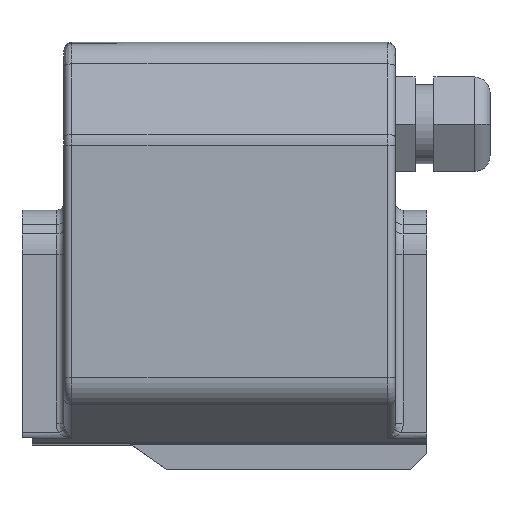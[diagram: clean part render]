
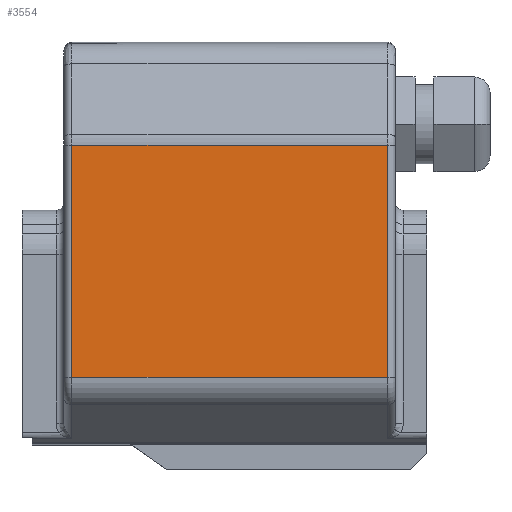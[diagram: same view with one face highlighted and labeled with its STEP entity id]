
A CAD part, left-side view. The second image highlights one B-rep face of the part: STEP entity #3554.
In plain terms, the highlighted planar face has unit normal (-1, 0, 0.009).
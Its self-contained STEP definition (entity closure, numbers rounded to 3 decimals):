
#413=ORIENTED_EDGE('',*,*,#1113,.T.);
#414=ORIENTED_EDGE('',*,*,#1115,.T.);
#415=ORIENTED_EDGE('',*,*,#1116,.F.);
#416=ORIENTED_EDGE('',*,*,#1117,.T.);
#1113=EDGE_CURVE('',#1460,#1459,#1694,.T.);
#1115=EDGE_CURVE('',#1459,#1461,#1695,.T.);
#1116=EDGE_CURVE('',#1462,#1461,#1696,.T.);
#1117=EDGE_CURVE('',#1462,#1460,#1697,.F.);
#1459=VERTEX_POINT('',#4968);
#1460=VERTEX_POINT('',#4970);
#1461=VERTEX_POINT('',#4974);
#1462=VERTEX_POINT('',#4976);
#1694=LINE('',#4969,#1919);
#1695=LINE('',#4973,#1920);
#1696=LINE('',#4975,#1921);
#1697=LINE('',#4977,#1922);
#1919=VECTOR('',#4133,1000.);
#1920=VECTOR('',#4138,1000.);
#1921=VECTOR('',#4139,1000.);
#1922=VECTOR('',#4140,1000.);
#2098=EDGE_LOOP('',(#413,#414,#415,#416));
#2258=FACE_BOUND('',#2098,.T.);
#2407=PLANE('',#3732);
#3554=ADVANCED_FACE('',(#2258),#2407,.F.);
#3732=AXIS2_PLACEMENT_3D('',#4972,#4136,#4137);
#4133=DIRECTION('',(0.,1.,0.));
#4136=DIRECTION('',(1.,0.,-0.009));
#4137=DIRECTION('',(-0.009,0.,-1.));
#4138=DIRECTION('',(-0.009,0.,-1.));
#4139=DIRECTION('',(0.,1.,0.));
#4140=DIRECTION('',(-0.009,0.,-1.));
#4968=CARTESIAN_POINT('',(-49.353,50.,63.315));
#4969=CARTESIAN_POINT('',(-49.353,-52.5,63.315));
#4970=CARTESIAN_POINT('',(-49.353,-50.,63.315));
#4972=CARTESIAN_POINT('',(-49.995,-52.5,-10.25));
#4973=CARTESIAN_POINT('',(-49.995,50.,-10.25));
#4974=CARTESIAN_POINT('',(-49.995,50.,-10.25));
#4975=CARTESIAN_POINT('',(-49.995,-52.5,-10.25));
#4976=CARTESIAN_POINT('',(-49.995,-50.,-10.25));
#4977=CARTESIAN_POINT('',(-49.353,-50.,63.315));
